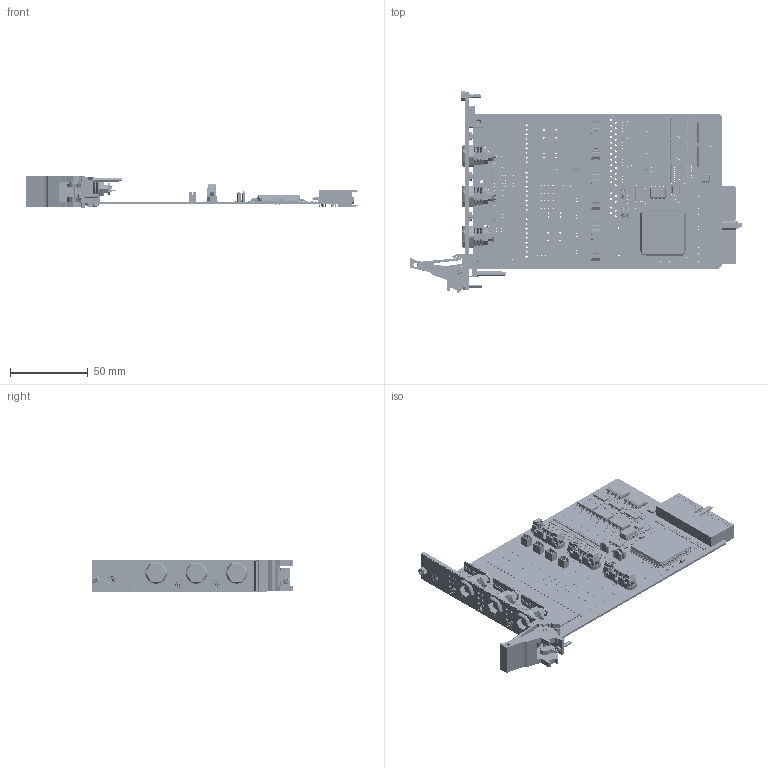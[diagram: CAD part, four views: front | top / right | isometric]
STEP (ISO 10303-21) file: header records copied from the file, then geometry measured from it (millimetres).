
FILE_DESCRIPTION (( 'STEP AP214' ), '1' );
FILE_NAME ('40-785B-543-E BASIC ASSY-S22.STEP', '2019-07-19T09:25:12', ( 'admin' ), ( 'Hewlett-Packard Company' ), 'SwSTEP 2.0', 'SolidWorks 2019', '' );
FILE_SCHEMA (( 'AUTOMOTIVE_DESIGN' ));
Length unit declared in the file: millimetre
Products named in the file (66): C-SC-147 BLUE LED 0603; A-PC-1059-# Microwave Ribbon PCB Assy; C-IC-087 IC 74HCT32D Logic IC Smt_No Text; C-FX-025 Pcb Mounting Bracket; C-CN-1132-Base; C-FX-028 Hex Nut M2.5 _C-FX-028 M2,5 Nut; C-CP-141 CAP 10UF 1206 35V X5R 10%; C-CN-887 2 X8 WAY HEADER MALE STRAIGHT; C-FX-165 Handle Pin; C-CN-1318 ODU MINI-SNAP L-SERIES P10 PCB NUT; C-IC-330 A2982 SOURCE DRIVER; A-PC-716-C uWAVE SOURCE DRIVER CARD; C-FX-165 CPCI Ejector Handle; A-PC-1055 LED PCB Microwave Realy; C-CN-861 1 x 2 Way Header B2B-PH-K-S; C-BP-015 PXI 3U x 1 Slot Blank Panel; C-FX-042 Screw M2.5x6 CSK Pozi_M 2.5x06 - C-FX-042; C-CN-971 2X8WAY FEMALE SMT HEADER 2MM_ALIGNMENTALEAD STYLE1PINS8PLATINGFROWDV; C-CN-1132 2x8 Through Samtec Header; C-CN-355 Compact pci connector 3; L-FP-874 PXI 1 SLT FP Label Assy; A-FP-874-L1 PXI 1 SLT 3x8 way mini snap FP Full Assembly; A-PC-1055-# LED PCB Microwave Realy; A-PC-1059 Microwave Ribbon PCB Assy; C-IC-099 DIP8 Package_No Text; C-FX-165 Handle Body; C-CN-1132-PIN; C-RS-190 Res 0R0 SIZE 0603 SMT; C-SC-056 Diode 1SS355TE-17; P-FX-017 M2,5 Collar Posi-Slot Screw; C-CN-1318 ODU MINI-SNAP L-SERIES P10 PCB SOCKET; C-IC-290 IC 8STAGE TRI-STATE SHIFT REGISTE_Without Package Description; 40-785B-543-E BASIC ASSY-S22; C-BK-026 Bush Front Panel Mounting; C-SC-035 Transistor SMT; C-FP-874 PXI 3U 1 SLOT 3 x SNAP OUD; C-FX-101 M2.5x6mm Pan Head Cross Recess Screw_ISO_ISO 7045 - M2.5 x 6 - Z --- 6N; C-RS-152 Res 10K 0603 1-16W 1% 300PPM; C-CN-1318 ODU MINI-SNAP L-SERIES P10 PCB; C-IC-101 IC 74HCT244 SMD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
Assembly tree (280 placements, depth 5):
  40-785B-543-E BASIC ASSY-S22
    A-FP-874-L1 PXI 1 SLT 3x8 way mini snap FP Full Assembly
      A-FP-874 PXI 1 SLT 3x8way Mini Snap FP+Label Assy
        C-FP-874 PXI 3U 1 SLOT 3 x SNAP OUD
          C-BP-015 PXI 3U x 1 Slot Blank Panel
        L-FP-874 PXI 1 SLT FP Label Assy
          L-FP-874-# PXI 1 SLT 3x8 Way Minisnap FP Label
      C-FX-025 Pcb Mounting Bracket
      C-FX-165 CPCI Ejector Handle
        C-FX-165 Handle Body
        C-FX-165 Handle Finger
        C-FX-165 Handle Pin
        P-FX-017 M2,5 Collar Posi-Slot Screw
        L-FX-165 PXI Handle Label
      Z-FX-2001 FP Fixing - Bush + Screw
        C-BK-026 Bush Front Panel Mounting
        P-FX-017 M2,5 Collar Posi-Slot Screw
      C-FX-042 Screw M2.5x6 CSK Pozi_M 2.5x06 - C-FX-042
      C-FX-101 M2.5x6mm Pan Head Cross Recess Screw_ISO_ISO 7045 - M2.5 x 6 - Z --- 6N
      C-FX-396 M2.5 x 4mm Countersink screw_M 2.5x4mm - C-FX-396  x3
    A-PC-1059 Microwave Ribbon PCB Assy
      A-PC-1059-# Microwave Ribbon PCB Assy
        C-PC-1059 Microwave Ribbon PCB
        C-CN-1132 2x8 Through Samtec Header
          C-CN-1132-Base
          C-CN-1132-PIN  x16
        C-CN-1318 ODU MINI-SNAP L-SERIES P10 PCB
          C-CN-1318 ODU MINI-SNAP L-SERIES P10 PCB NUT
          C-CN-1318 ODU MINI-SNAP L-SERIES P10 PCB SOCKET
    A-PC-1055 LED PCB Microwave Realy
      A-PC-1055-# LED PCB Microwave Realy
        pcb1055r0
        C-CN-971 2X8WAY FEMALE SMT HEADER 2MM_ALIGNMENTALEAD STYLE1PINS8PLATINGFROWDV
        C-RS-152 Res 10K 0603 1-16W 1% 300PPM  x6
        C-SC-147 BLUE LED 0603  x6
    C-FX-101 M2.5x6mm Pan Head Cross Recess Screw_ISO_ISO 7045 - M2.5 x 6 - Z --- 6N  x2
    C-FX-028 Hex Nut M2.5 _C-FX-028 M2,5 Nut  x3
    A-PC-1059 Microwave Ribbon PCB Assy
      A-PC-1059-# Microwave Ribbon PCB Assy
        C-PC-1059 Microwave Ribbon PCB
        C-CN-1132 2x8 Through Samtec Header
          C-CN-1132-Base
          C-CN-1132-PIN  x16
        C-CN-1318 ODU MINI-SNAP L-SERIES P10 PCB
          C-CN-1318 ODU MINI-SNAP L-SERIES P10 PCB NUT
          C-CN-1318 ODU MINI-SNAP L-SERIES P10 PCB SOCKET
    A-PC-1055 LED PCB Microwave Realy
      A-PC-1055-# LED PCB Microwave Realy
        pcb1055r0
        C-CN-971 2X8WAY FEMALE SMT HEADER 2MM_ALIGNMENTALEAD STYLE1PINS8PLATINGFROWDV
        C-RS-152 Res 10K 0603 1-16W 1% 300PPM  x6
        C-SC-147 BLUE LED 0603  x6
    A-PC-1055 LED PCB Microwave Realy
      A-PC-1055-# LED PCB Microwave Realy
        pcb1055r0
        C-CN-971 2X8WAY FEMALE SMT HEADER 2MM_ALIGNMENTALEAD STYLE1PINS8PLATINGFROWDV
        C-RS-152 Res 10K 0603 1-16W 1% 300PPM  x6
        C-SC-147 BLUE LED 0603  x6
    A-PC-1059 Microwave Ribbon PCB Assy
      A-PC-1059-# Microwave Ribbon PCB Assy
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Bounding box: 214.01 x 129.67 x 20 mm (x, y, z)
Topology: 757 solids, 793 shells, 23234 faces, 59067 edges, 37825 vertices
Faces by surface type: plane 15257, cylinder 6715, cone 697, bspline 267, sphere 213, torus 85
Full cylindrical faces by diameter (mm): 0.75 x1
Entity records: 479991 total; most frequent: CARTESIAN_POINT 78005, DIRECTION 66110, ORIENTED_EDGE 63612, EDGE_CURVE 31810, AXIS2_PLACEMENT_3D 22566, VECTOR 20978, LINE 20978, VERTEX_POINT 20717
